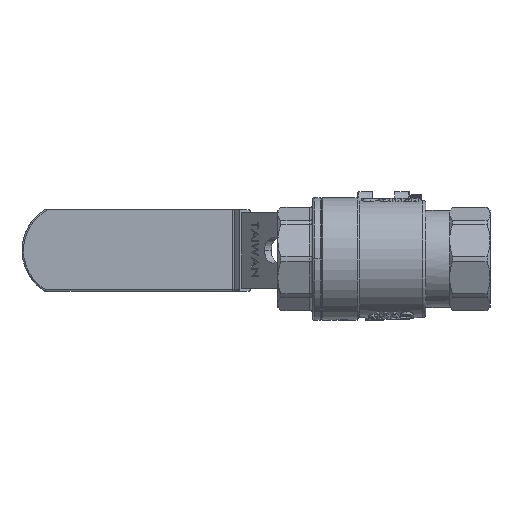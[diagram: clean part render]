
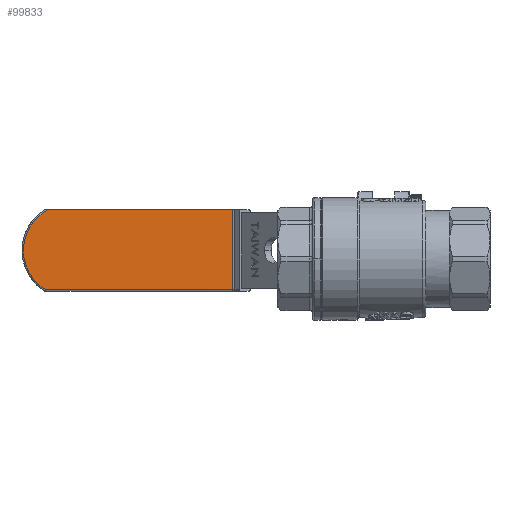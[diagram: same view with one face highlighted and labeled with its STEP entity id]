
A CAD part, front view. The second image highlights one B-rep face of the part: STEP entity #99833.
In plain terms, the highlighted planar face has unit normal (0, -1, 0).
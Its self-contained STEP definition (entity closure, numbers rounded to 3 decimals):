
#604 = LINE ( 'NONE', #23577, #96063 ) ;
#2006 = LINE ( 'NONE', #83834, #89611 ) ;
#11514 = EDGE_CURVE ( 'NONE', #53625, #14269, #12344, .T. ) ;
#12344 = CIRCLE ( 'NONE', #141264, 15.5 ) ;
#14269 = VERTEX_POINT ( 'NONE', #102119 ) ;
#14382 = VECTOR ( 'NONE', #15751, 1000. ) ;
#15751 = DIRECTION ( 'NONE',  ( 1., 0., 0. ) ) ;
#17087 = EDGE_LOOP ( 'NONE', ( #77046, #93031, #57231, #90314 ) ) ;
#18711 = PLANE ( 'NONE',  #80786 ) ;
#23577 = CARTESIAN_POINT ( 'NONE',  ( 50.456, 20.5, 13.15 ) ) ;
#31790 = FACE_OUTER_BOUND ( 'NONE', #17087, .T. ) ;
#36068 = DIRECTION ( 'NONE',  ( -1., 0., 0. ) ) ;
#36435 = DIRECTION ( 'NONE',  ( 0., 0., -1. ) ) ;
#38016 = CARTESIAN_POINT ( 'NONE',  ( 112.344, 20.5, -13.65 ) ) ;
#43742 = DIRECTION ( 'NONE',  ( 0., 0., 1. ) ) ;
#49399 = DIRECTION ( 'NONE',  ( 0., -1., 0. ) ) ;
#53625 = VERTEX_POINT ( 'NONE', #38016 ) ;
#57231 = ORIENTED_EDGE ( 'NONE', *, *, #146376, .T. ) ;
#77046 = ORIENTED_EDGE ( 'NONE', *, *, #155485, .T. ) ;
#80503 = CARTESIAN_POINT ( 'NONE',  ( 50.456, 20.5, 13.15 ) ) ;
#80786 = AXIS2_PLACEMENT_3D ( 'NONE', #105956, #118578, #43742 ) ;
#83834 = CARTESIAN_POINT ( 'NONE',  ( 50.456, 20.5, 12.65 ) ) ;
#84499 = LINE ( 'NONE', #140878, #14382 ) ;
#89611 = VECTOR ( 'NONE', #36435, 1000. ) ;
#90314 = ORIENTED_EDGE ( 'NONE', *, *, #99085, .T. ) ;
#93031 = ORIENTED_EDGE ( 'NONE', *, *, #11514, .T. ) ;
#96063 = VECTOR ( 'NONE', #36068, 1000. ) ;
#99085 = EDGE_CURVE ( 'NONE', #118583, #132612, #2006, .T. ) ;
#99833 = ADVANCED_FACE ( 'NONE', ( #31790 ), #18711, .F. ) ;
#102119 = CARTESIAN_POINT ( 'NONE',  ( 113.205, 20.5, 13.15 ) ) ;
#105956 = CARTESIAN_POINT ( 'NONE',  ( 49.6, 20.5, 12.65 ) ) ;
#118578 = DIRECTION ( 'NONE',  ( 0., 1., 0. ) ) ;
#118583 = VERTEX_POINT ( 'NONE', #80503 ) ;
#124344 = CARTESIAN_POINT ( 'NONE',  ( 105., 20.5, 0. ) ) ;
#132612 = VERTEX_POINT ( 'NONE', #135148 ) ;
#135148 = CARTESIAN_POINT ( 'NONE',  ( 50.456, 20.5, -13.65 ) ) ;
#137003 = DIRECTION ( 'NONE',  ( 0., 0., 1. ) ) ;
#140878 = CARTESIAN_POINT ( 'NONE',  ( 49.6, 20.5, -13.65 ) ) ;
#141264 = AXIS2_PLACEMENT_3D ( 'NONE', #124344, #49399, #137003 ) ;
#146376 = EDGE_CURVE ( 'NONE', #14269, #118583, #604, .T. ) ;
#155485 = EDGE_CURVE ( 'NONE', #132612, #53625, #84499, .T. ) ;
